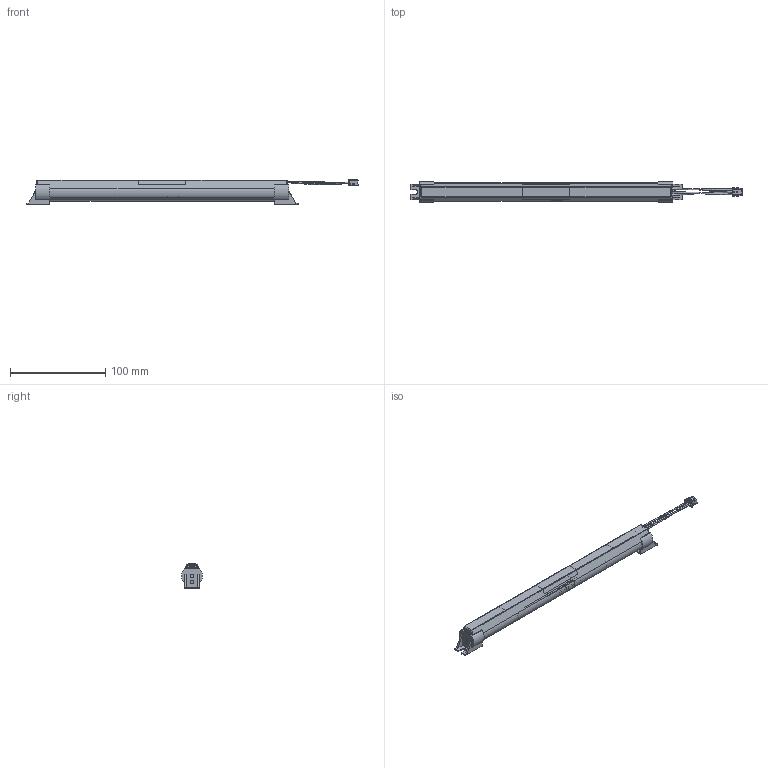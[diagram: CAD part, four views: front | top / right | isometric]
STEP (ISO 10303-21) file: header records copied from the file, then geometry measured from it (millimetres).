
FILE_DESCRIPTION((''),'2;1');
FILE_NAME('15012925Z_DMEC_28002322_PO4-4A','2018-11-08T13:37:05',('juergen.hrach'),(''),'CREO PARAMETRIC BY PTC INC, 2017380','CREO PARAMETRIC BY PTC INC, 2017380','');
FILE_SCHEMA(('AUTOMOTIVE_DESIGN { 1 0 10303 214 1 1 1 1 }'));
Length unit declared in the file: millimetre
Products named in the file (1): 15012925Z_DMEC_28002322_PO4-4A
Bounding box: 348.22 x 21.93 x 26.15 mm (x, y, z)
Volume: 78887.7 mm3; surface area: 79537.4 mm2
Topology: 7 solids, 13 shells, 840 faces, 2351 edges, 1492 vertices
Faces by surface type: plane 508, cylinder 220, torus 54, bspline 48, cone 10
Entity records: 34420 total; most frequent: CARTESIAN_POINT 9325, ORIENTED_EDGE 4702, DIRECTION 4185, EDGE_CURVE 2351, VERTEX_POINT 1492, VECTOR 1471, LINE 1471, AXIS2_PLACEMENT_3D 1357
